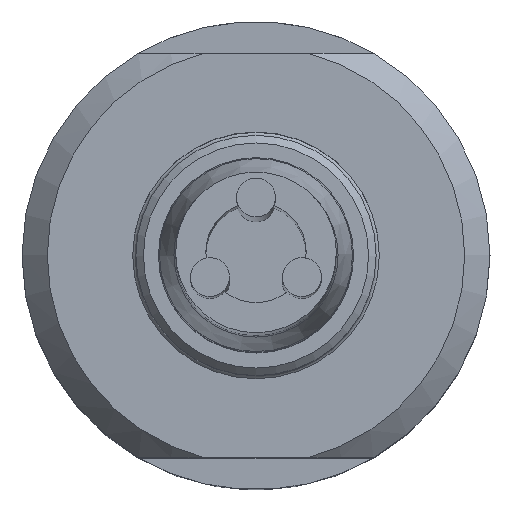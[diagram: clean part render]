
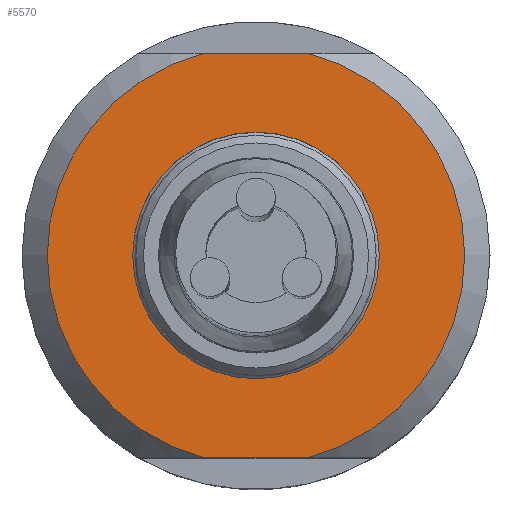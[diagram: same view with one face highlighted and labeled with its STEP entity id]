
A CAD part, top view. The second image highlights one B-rep face of the part: STEP entity #5570.
In plain terms, the highlighted planar face has unit normal (0, 0, 1).
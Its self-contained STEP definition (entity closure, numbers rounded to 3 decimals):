
#208 = EDGE_CURVE ( 'NONE', #4866, #2548, #2495, .T. ) ;
#212 = CIRCLE ( 'NONE', #2352, 8.25 ) ;
#254 = CARTESIAN_POINT ( 'NONE',  ( 0., 0., 20.3 ) ) ;
#376 = ORIENTED_EDGE ( 'NONE', *, *, #7441, .T. ) ;
#412 = CIRCLE ( 'NONE', #2641, 4.875 ) ;
#437 = AXIS2_PLACEMENT_3D ( 'NONE', #1269, #5418, #4103 ) ;
#696 = DIRECTION ( 'NONE',  ( -1., 0., 0. ) ) ;
#805 = CARTESIAN_POINT ( 'NONE',  ( -4.875, 0., 20.3 ) ) ;
#1117 = EDGE_LOOP ( 'NONE', ( #6481 ) ) ;
#1187 = DIRECTION ( 'NONE',  ( -1., 0., 0. ) ) ;
#1269 = CARTESIAN_POINT ( 'NONE',  ( 0., 8.25, 20.3 ) ) ;
#1386 = DIRECTION ( 'NONE',  ( 0., 0., -1. ) ) ;
#1506 = CIRCLE ( 'NONE', #6832, 8.25 ) ;
#1732 = FACE_BOUND ( 'NONE', #1117, .T. ) ;
#1736 = CARTESIAN_POINT ( 'NONE',  ( 0., 0., 20.3 ) ) ;
#2037 = VECTOR ( 'NONE', #2538, 1000. ) ;
#2338 = LINE ( 'NONE', #4704, #5041 ) ;
#2340 = EDGE_CURVE ( 'NONE', #6497, #2548, #1506, .T. ) ;
#2352 = AXIS2_PLACEMENT_3D ( 'NONE', #5120, #4617, #3967 ) ;
#2476 = EDGE_CURVE ( 'NONE', #4935, #4935, #412, .T. ) ;
#2495 = LINE ( 'NONE', #4287, #2037 ) ;
#2538 = DIRECTION ( 'NONE',  ( 1., 0., 0. ) ) ;
#2548 = VERTEX_POINT ( 'NONE', #5099 ) ;
#2641 = AXIS2_PLACEMENT_3D ( 'NONE', #254, #1386, #3745 ) ;
#2833 = CARTESIAN_POINT ( 'NONE',  ( -2.016, 8., 20.3 ) ) ;
#3299 = EDGE_LOOP ( 'NONE', ( #6036, #5427, #7619, #376 ) ) ;
#3745 = DIRECTION ( 'NONE',  ( -1., 0., 0. ) ) ;
#3967 = DIRECTION ( 'NONE',  ( -1., 0., 0. ) ) ;
#4103 = DIRECTION ( 'NONE',  ( 1., 0., 0. ) ) ;
#4212 = VERTEX_POINT ( 'NONE', #2833 ) ;
#4287 = CARTESIAN_POINT ( 'NONE',  ( -23.067, -8., 20.3 ) ) ;
#4617 = DIRECTION ( 'NONE',  ( 0., 0., -1. ) ) ;
#4704 = CARTESIAN_POINT ( 'NONE',  ( -23.067, 8., 20.3 ) ) ;
#4866 = VERTEX_POINT ( 'NONE', #7667 ) ;
#4935 = VERTEX_POINT ( 'NONE', #805 ) ;
#5017 = EDGE_CURVE ( 'NONE', #4866, #4212, #212, .T. ) ;
#5041 = VECTOR ( 'NONE', #1187, 1000. ) ;
#5099 = CARTESIAN_POINT ( 'NONE',  ( 2.016, -8., 20.3 ) ) ;
#5120 = CARTESIAN_POINT ( 'NONE',  ( 0., 0., 20.3 ) ) ;
#5338 = FACE_OUTER_BOUND ( 'NONE', #3299, .T. ) ;
#5418 = DIRECTION ( 'NONE',  ( 0., 0., 1. ) ) ;
#5427 = ORIENTED_EDGE ( 'NONE', *, *, #208, .T. ) ;
#5570 = ADVANCED_FACE ( 'NONE', ( #1732, #5338 ), #7081, .T. ) ;
#6006 = DIRECTION ( 'NONE',  ( 0., 0., -1. ) ) ;
#6036 = ORIENTED_EDGE ( 'NONE', *, *, #5017, .F. ) ;
#6481 = ORIENTED_EDGE ( 'NONE', *, *, #2476, .T. ) ;
#6497 = VERTEX_POINT ( 'NONE', #7211 ) ;
#6832 = AXIS2_PLACEMENT_3D ( 'NONE', #1736, #6006, #696 ) ;
#7081 = PLANE ( 'NONE',  #437 ) ;
#7211 = CARTESIAN_POINT ( 'NONE',  ( 2.016, 8., 20.3 ) ) ;
#7441 = EDGE_CURVE ( 'NONE', #6497, #4212, #2338, .T. ) ;
#7619 = ORIENTED_EDGE ( 'NONE', *, *, #2340, .F. ) ;
#7667 = CARTESIAN_POINT ( 'NONE',  ( -2.016, -8., 20.3 ) ) ;
